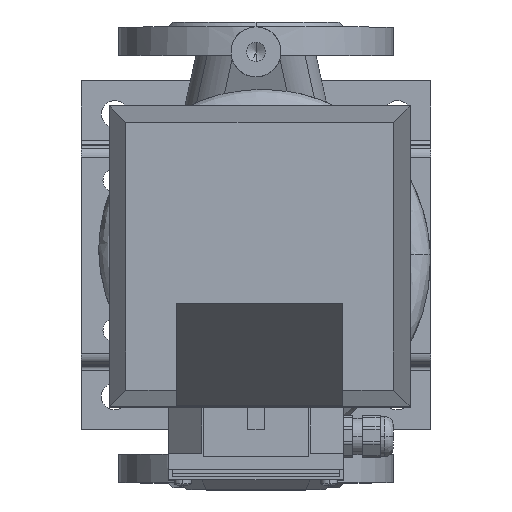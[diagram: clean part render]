
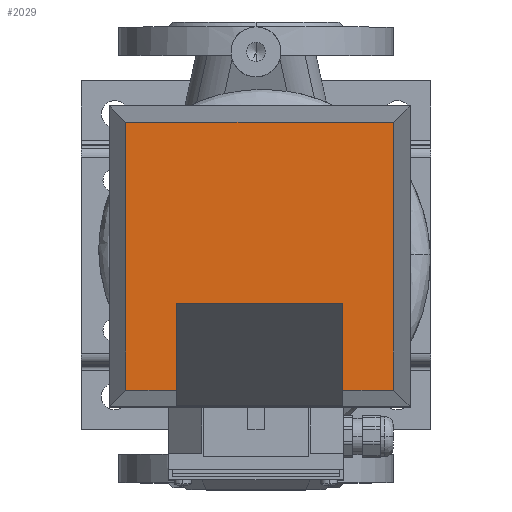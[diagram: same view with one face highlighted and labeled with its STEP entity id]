
A CAD part, top view. The second image highlights one B-rep face of the part: STEP entity #2029.
In plain terms, the highlighted planar face has unit normal (0, 0, 1) as drawn and (0, 1, 0) by its records, which use the part's own axes.
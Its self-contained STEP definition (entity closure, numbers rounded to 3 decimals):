
#2029=ADVANCED_FACE('',(#3688),#3689,.T.);
#2039=EDGE_CURVE('',#3701,#3704,#3705,.T.);
#3688=FACE_OUTER_BOUND('',#10086,.T.);
#3689=PLANE('',#10087);
#3701=VERTEX_POINT('',#10100);
#3704=VERTEX_POINT('',#10105);
#3705=LINE('',#10106,#10107);
#10086=EDGE_LOOP('',(#18001,#18002,#18003,#18004,#18005,#18006,#18007,#18008));
#10087=AXIS2_PLACEMENT_3D('',#18009,#18010,#18011);
#10100=CARTESIAN_POINT('',(50.0,114.0,118.64));
#10105=CARTESIAN_POINT('',(50.0,114.0,171.0));
#10106=CARTESIAN_POINT('',(50.0,114.0,90.179));
#10107=VECTOR('',#18037,1.0);
#18001=ORIENTED_EDGE('',*,*,#2039,.T.);
#18002=ORIENTED_EDGE('',*,*,#38390,.F.);
#18003=ORIENTED_EDGE('',*,*,#38398,.F.);
#18004=ORIENTED_EDGE('',*,*,#38400,.F.);
#18005=ORIENTED_EDGE('',*,*,#38392,.F.);
#18006=ORIENTED_EDGE('',*,*,#38386,.F.);
#18007=ORIENTED_EDGE('',*,*,#38379,.T.);
#18008=ORIENTED_EDGE('',*,*,#38382,.T.);
#18009=CARTESIAN_POINT('',(0.0,114.0,0.0));
#18010=DIRECTION('',(0.0,1.0,-0.0));
#18011=DIRECTION('',(-1.0,0.0,0.0));
#18037=DIRECTION('',(0.0,0.0,1.0));
#38379=EDGE_CURVE('',#58697,#58699,#58701,.T.);
#38382=EDGE_CURVE('',#58699,#3701,#58704,.T.);
#38386=EDGE_CURVE('',#58697,#58708,#58709,.T.);
#38390=EDGE_CURVE('',#58714,#3704,#58716,.T.);
#38392=EDGE_CURVE('',#58708,#58718,#58719,.T.);
#38398=EDGE_CURVE('',#58724,#58714,#58726,.T.);
#38400=EDGE_CURVE('',#58718,#58724,#58728,.T.);
#58697=VERTEX_POINT('',#67583);
#58699=VERTEX_POINT('',#67586);
#58701=LINE('',#67589,#67590);
#58704=LINE('',#67594,#67595);
#58708=VERTEX_POINT('',#67600);
#58709=LINE('',#67601,#67602);
#58714=VERTEX_POINT('',#67609);
#58716=LINE('',#67612,#67613);
#58718=VERTEX_POINT('',#67615);
#58719=LINE('',#67616,#67617);
#58724=VERTEX_POINT('',#67625);
#58726=LINE('',#67628,#67629);
#58728=LINE('',#67631,#67632);
#67583=CARTESIAN_POINT('',(-50.0,114.0,171.0));
#67586=CARTESIAN_POINT('',(-50.0,114.0,118.64));
#67589=CARTESIAN_POINT('',(-50.0,114.0,90.179));
#67590=VECTOR('',#78657,1.0);
#67594=CARTESIAN_POINT('',(25.0,114.0,118.64));
#67595=VECTOR('',#78659,1.0);
#67600=CARTESIAN_POINT('',(-80.5,114.0,171.0));
#67601=CARTESIAN_POINT('',(45.25,114.0,171.0));
#67602=VECTOR('',#78661,1.0);
#67609=CARTESIAN_POINT('',(80.5,114.0,171.0));
#67612=CARTESIAN_POINT('',(45.25,114.0,171.0));
#67613=VECTOR('',#78665,1.0);
#67615=CARTESIAN_POINT('',(-80.5,114.0,10.0));
#67616=CARTESIAN_POINT('',(-80.5,114.0,0.0));
#67617=VECTOR('',#78666,1.0);
#67625=CARTESIAN_POINT('',(80.5,114.0,10.0));
#67628=CARTESIAN_POINT('',(80.5,114.0,0.0));
#67629=VECTOR('',#78671,1.0);
#67631=CARTESIAN_POINT('',(45.25,114.0,10.0));
#67632=VECTOR('',#78672,1.0);
#78657=DIRECTION('',(-0.0,0.0,-1.0));
#78659=DIRECTION('',(1.0,-0.0,0.0));
#78661=DIRECTION('',(-1.0,0.0,-0.0));
#78665=DIRECTION('',(-1.0,0.0,-0.0));
#78666=DIRECTION('',(-0.0,-0.0,-1.0));
#78671=DIRECTION('',(-0.0,0.0,1.0));
#78672=DIRECTION('',(1.0,-0.0,-0.0));
